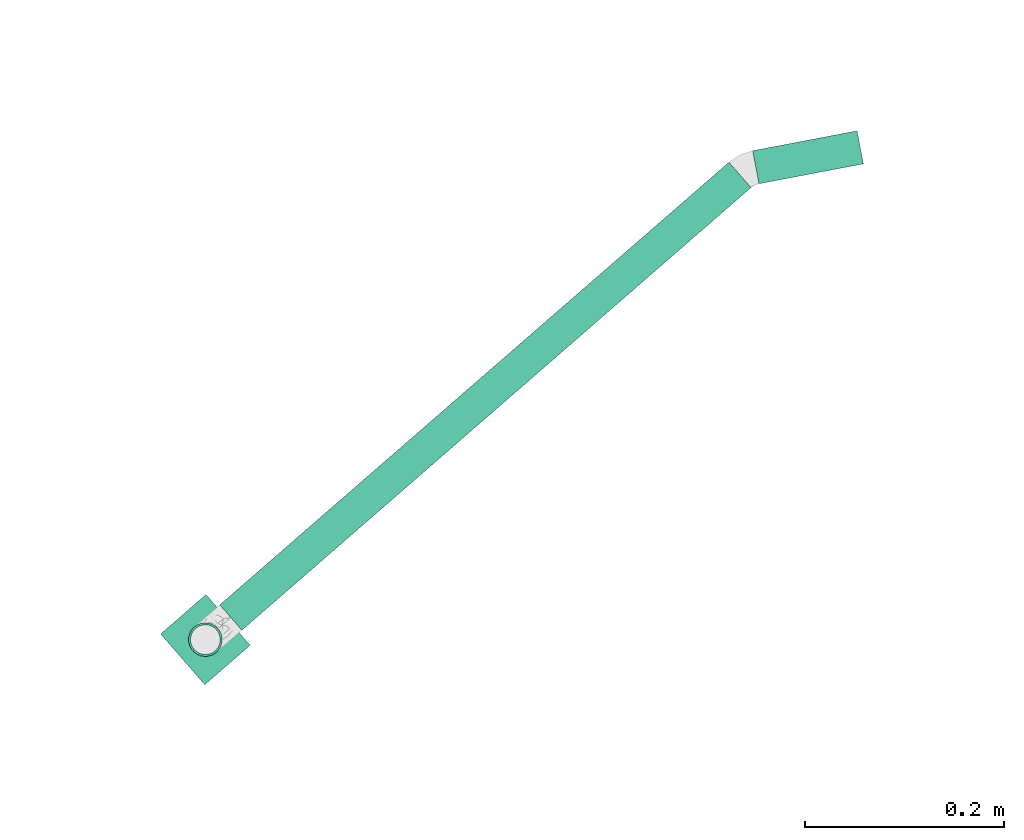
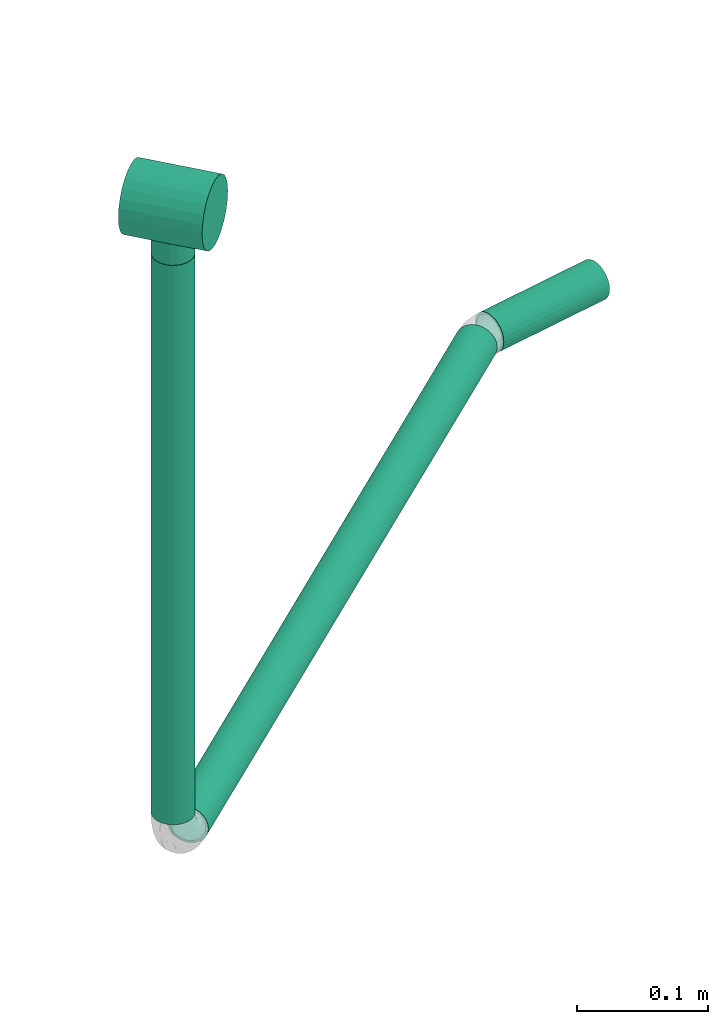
# One storey, part 11 of 63: 3 flow segments, 1 flow fitting.
"""IFC2X3 building model written with IfcOpenShell, lengths in millimetres."""

from ifc_helpers import new_model, entity, si_unit, converted_unit, derived_unit, direction, frame, origin_with_axes, origin_2d_with_axis, place, context, subcontext, project, spatial, hollow_circle, extrude, open_shell, surface_model, source, transform, mapped, type_object, element, save


model = new_model("IFC2X3")

# Units and contexts
model_context = context("Model", 3, precision=0.01, world=frame((0.0, 4.29681676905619e-09, 0.0)), true_north=direction((4.01073788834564e-13, 1.0)))
plan_context = context("Plan", 3, precision=0.01, world=frame((0.0, 4.29681676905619e-09, 0.0)), true_north=direction((4.01073788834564e-13, 1.0)))
body_context = subcontext(model_context, "Body", "Model", "MODEL_VIEW")
ifc_project = project(units=[converted_unit("PLANEANGLEUNIT", "DEGREE", entity("IfcPositiveLengthMeasure", 0.0174532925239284), si_unit("PLANEANGLEUNIT", "RADIAN"), dimensions=[0, 0, 0, 0, 0, 0, 0]), si_unit("AREAUNIT", "SQUARE_METRE"), si_unit("LENGTHUNIT", "METRE", prefix="MILLI"), si_unit("MASSUNIT", "GRAM", prefix="KILO"), si_unit("POWERUNIT", "WATT"), si_unit("PRESSUREUNIT", "PASCAL", prefix="KILO"), si_unit("FORCEUNIT", "NEWTON", prefix="KILO"), si_unit("ELECTRICVOLTAGEUNIT", "VOLT"), si_unit("ELECTRICCURRENTUNIT", "AMPERE"), si_unit("THERMODYNAMICTEMPERATUREUNIT", "DEGREE_CELSIUS"), si_unit("TIMEUNIT", "SECOND"), si_unit("VOLUMEUNIT", "CUBIC_METRE"), derived_unit("LINEARVELOCITYUNIT", [(si_unit("LENGTHUNIT", "METRE"), 1), (si_unit("TIMEUNIT", "SECOND"), -1)]), derived_unit("VOLUMETRICFLOWRATEUNIT", [(si_unit("VOLUMEUNIT", "CUBIC_METRE"), 1), (si_unit("TIMEUNIT", "SECOND"), -1)]), derived_unit("THERMALTRANSMITTANCEUNIT", [(si_unit("POWERUNIT", "WATT"), 1), (si_unit("THERMODYNAMICTEMPERATUREUNIT", "KELVIN"), -1), (si_unit("AREAUNIT", "SQUARE_METRE"), -1)]), derived_unit("SOUNDPRESSUREUNIT", [(si_unit("PRESSUREUNIT", "PASCAL"), 1)])], contexts=[model_context, plan_context])

# Site, building, storey
site_placement = place(None, frame((0.0, -4.29681676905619e-09, 0.0), z_axis=(0.0, 0.0, 1.0), x_axis=(1.0, 0.0, 0.0)))
site = spatial("IfcSite", under=ifc_project, at=site_placement, CompositionType="ELEMENT")
building_placement = place(site_placement, frame((0.0, 4.29681676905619e-09, 0.0), z_axis=(0.0, 0.0, 1.0), x_axis=(1.0, 0.0, 0.0)))
building = spatial("IfcBuilding", under=site, at=building_placement, Name="mc-building", CompositionType="ELEMENT")
storey_placement = place(building_placement, frame((0.0, 0.0, 207370.0), z_axis=(0.0, 0.0, 1.0), x_axis=(1.0, 0.0, 0.0)))
storey = spatial("IfcBuildingStorey", under=building, at=storey_placement, Name="Nivå E", CompositionType="ELEMENT", Elevation=207370.0)

# Flow fitting
pipe_fitting_type = type_object("IfcPipeFittingType", Name="magi_pipe_fe_tee_centric_90_NOR", PredefinedType="JUNCTION")
shared_shape_1 = source(origin_with_axes(), body_context, "Body", "SurfaceModel", [
    surface_model("IfcShellBasedSurfaceModel", [(-33.8, 15.1, -26.15397), (-33.8, 7.81634, -29.17096), (-33.8, 0.0, -30.2), (-33.8, 29.17096, -7.81634), (-33.8, 26.15397, -15.1), (-33.8, 21.35462, -21.35462), (-33.8, 30.2, 0.0), (-33.8, -30.2, 0.0), (-33.8, -15.1, -26.15397), (-33.8, -21.35462, -21.35462), (-33.8, -7.81634, -29.17096), (-33.8, -26.15397, -15.1), (-33.8, -29.17096, -7.81634), (-33.8, 26.15397, 15.1), (-33.8, 29.17096, 7.81634), (-33.8, 15.1, 26.15397), (-33.8, -21.35462, 21.35462), (-33.8, 21.35462, 21.35462), (-33.8, 7.81634, 29.17096), (-33.8, -29.17096, 7.81634), (-33.8, -26.15397, 15.1), (-33.8, -7.81634, 29.17096), (-33.8, 0.0, 30.2), (-33.8, -15.1, 26.15397), (33.8, 29.17096, -7.81634), (33.8, 0.0, -30.2), (33.8, 7.81634, -29.17096), (33.8, 21.35462, -21.35462), (33.8, 15.1, -26.15397), (33.8, 26.15397, -15.1), (33.8, -30.2, 0.0), (33.8, -7.81634, -29.17096), (33.8, -21.35462, -21.35462), (33.8, -15.1, -26.15397), (33.8, -29.17096, -7.81634), (33.8, -26.15397, -15.1), (33.8, 30.2, 0.0), (33.8, 29.17096, 7.81634), (33.8, 26.15397, 15.1), (33.8, -29.17096, 7.81634), (33.8, 15.1, 26.15397), (33.8, 7.81634, 29.17096), (33.8, 21.35462, 21.35462), (33.8, -21.35462, 21.35462), (33.8, -26.15397, 15.1), (33.8, -15.1, 26.15397), (33.8, 0.0, 30.2), (33.8, -7.81634, 29.17096), (33.8, -29.68548, 3.90817), (15.846, -29.62306, 5.87488), (16.373, -29.91153, 2.93744), (12.91037, -28.16217, 10.90561), (2.99213, -25.2068, 16.63301), (16.9, -30.2, 0.0), (33.8, -27.66246, 11.45817), (8.50854, -26.43531, 14.60187), (-8.51006, -26.43579, 14.60099), (-33.8, -27.66246, 11.45817), (-12.91447, -28.16405, 10.90075), (-15.84655, -29.62335, 5.87341), (-33.8, -29.68548, 3.90817), (-16.37327, -29.91168, 2.93671), (-16.9, -30.2, 0.0), (-2.99705, -25.20739, 16.63213), (2.99213, -25.2068, -16.63301), (-16.37327, -29.91168, -2.93671), (8.50854, -26.43531, -14.60187), (33.8, -27.66246, -11.45817), (16.373, -29.91153, -2.93744), (-33.8, -29.68548, -3.90817), (-15.84655, -29.62335, -5.87341), (15.846, -29.62306, -5.87488), (12.91037, -28.16217, -10.90561), (33.8, -29.68548, -3.90817), (-2.99705, -25.20739, -16.63213), (-8.51006, -26.43579, -14.60099), (-12.91447, -28.16405, -10.90075), (-33.8, -27.66246, -11.45817), (4.37404, -45.3, -16.32415), (-16.9, -45.3, 0.0), (0.0, -45.3, -16.9), (14.63583, -45.3, -8.45), (8.45, -45.3, -14.63583), (16.32415, -45.3, -4.37404), (11.9501, -45.3, -11.9501), (-11.9501, -45.3, -11.9501), (-8.45, -45.3, -14.63583), (-4.37404, -45.3, -16.32415), (-14.63583, -45.3, -8.45), (-16.32415, -45.3, -4.37404), (16.9, -45.3, 0.0), (8.45, -45.3, 14.63583), (16.32415, -45.3, 4.37404), (14.63583, -45.3, 8.45), (-8.45, -45.3, 14.63583), (11.9501, -45.3, 11.9501), (4.37404, -45.3, 16.32415), (-16.32415, -45.3, 4.37404), (-11.9501, -45.3, 11.9501), (-14.63583, -45.3, 8.45), (0.0, -45.3, 16.9), (-4.37404, -45.3, 16.32415), (-5.75355, -25.82159, 15.61656), (-0.00246, -25.20709, 16.63257), (5.75034, -25.82105, 15.61744), (5.75034, -25.82105, -15.61744), (-0.00246, -25.20709, -16.63257), (-5.75355, -25.82159, -15.61656)], [open_shell([[[0, 1, 2]], [[3, 0, 2]], [[0, 3, 4]], [[5, 0, 4]], [[6, 2, 7]], [[8, 9, 10]], [[9, 2, 10]], [[11, 12, 9]], [[7, 9, 12]], [[9, 7, 2]], [[6, 3, 2]], [[13, 14, 6]], [[7, 15, 13]], [[7, 16, 15]], [[17, 13, 15]], [[18, 15, 16]], [[19, 20, 7]], [[7, 20, 16]], [[21, 22, 23]], [[16, 23, 22]], [[16, 22, 18]], [[7, 13, 6]], [[24, 25, 26]], [[27, 26, 28]], [[29, 24, 26]], [[29, 26, 27]], [[25, 24, 30]], [[31, 32, 33]], [[32, 31, 34]], [[32, 34, 35]], [[34, 31, 30]], [[31, 25, 30]], [[24, 36, 30]], [[36, 37, 38]], [[39, 36, 38]], [[40, 41, 38]], [[40, 38, 42]], [[43, 38, 41]], [[39, 43, 44]], [[39, 38, 43]], [[45, 46, 47]], [[46, 45, 43]], [[41, 46, 43]], [[36, 39, 30]], [[48, 39, 49]], [[30, 48, 50]], [[39, 51, 49]], [[44, 43, 52]], [[30, 50, 53]], [[51, 54, 55]], [[52, 55, 44]], [[48, 49, 50]], [[43, 16, 52]], [[55, 54, 44]], [[56, 57, 58]], [[59, 60, 61]], [[62, 61, 7]], [[59, 58, 19]], [[56, 63, 20]], [[51, 39, 54]], [[20, 57, 56]], [[20, 63, 16]], [[58, 57, 19]], [[63, 52, 16]], [[7, 61, 60]], [[59, 19, 60]], [[43, 23, 16]], [[22, 47, 46]], [[21, 45, 47]], [[18, 46, 41]], [[38, 37, 14]], [[17, 40, 42]], [[13, 42, 38]], [[41, 40, 15]], [[6, 37, 36]], [[23, 45, 21]], [[21, 47, 22]], [[18, 22, 46]], [[41, 15, 18]], [[15, 40, 17]], [[13, 17, 42]], [[14, 13, 38]], [[37, 6, 14]], [[45, 23, 43]], [[4, 24, 29]], [[3, 36, 24]], [[5, 29, 27]], [[25, 31, 10]], [[1, 28, 26]], [[2, 26, 25]], [[27, 28, 0]], [[8, 31, 33]], [[6, 36, 3]], [[3, 24, 4]], [[5, 4, 29]], [[27, 0, 5]], [[0, 28, 1]], [[2, 1, 26]], [[10, 2, 25]], [[31, 8, 10]], [[33, 9, 8]], [[32, 35, 64]], [[7, 65, 62]], [[66, 64, 35]], [[67, 66, 35]], [[32, 64, 9]], [[53, 68, 30]], [[69, 70, 65]], [[71, 72, 34]], [[71, 73, 68]], [[66, 67, 72]], [[34, 72, 67]], [[74, 75, 11]], [[76, 12, 77]], [[11, 9, 74]], [[76, 77, 75]], [[74, 9, 64]], [[76, 70, 12]], [[71, 34, 73]], [[70, 69, 12]], [[65, 7, 69]], [[30, 68, 73]], [[77, 11, 75]], [[32, 9, 33]], [[78, 79, 80]], [[81, 78, 82]], [[81, 83, 78]], [[81, 82, 84]], [[79, 78, 83]], [[80, 85, 86]], [[86, 87, 80]], [[88, 79, 89]], [[85, 80, 88]], [[79, 88, 80]], [[83, 90, 79]], [[91, 90, 92]], [[91, 92, 93]], [[94, 79, 91]], [[91, 93, 95]], [[94, 91, 96]], [[97, 98, 99]], [[98, 97, 94]], [[94, 100, 101]], [[97, 79, 94]], [[96, 100, 94]], [[91, 79, 90]], [[97, 61, 79]], [[58, 99, 98]], [[97, 99, 59]], [[98, 94, 56]], [[61, 62, 79]], [[59, 99, 58]], [[101, 63, 102]], [[56, 58, 98]], [[100, 52, 103]], [[91, 104, 96]], [[100, 96, 52]], [[50, 49, 92]], [[50, 90, 53]], [[104, 91, 55]], [[102, 94, 101]], [[102, 56, 94]], [[100, 63, 101]], [[97, 59, 61]], [[55, 91, 95]], [[95, 51, 55]], [[52, 96, 104]], [[92, 49, 93]], [[90, 50, 92]], [[93, 49, 51]], [[93, 51, 95]], [[103, 63, 100]], [[83, 68, 90]], [[72, 81, 84]], [[83, 81, 71]], [[84, 82, 66]], [[68, 53, 90]], [[71, 81, 72]], [[78, 64, 105]], [[66, 72, 84]], [[80, 74, 106]], [[86, 107, 87]], [[65, 70, 89]], [[105, 82, 78]], [[105, 66, 82]], [[75, 86, 85]], [[83, 71, 68]], [[70, 88, 89]], [[65, 79, 62]], [[85, 88, 76]], [[80, 64, 78]], [[87, 107, 74]], [[74, 80, 87]], [[75, 107, 86]], [[75, 85, 76]], [[76, 88, 70]], [[79, 65, 89]], [[106, 64, 80]]])]),
])
flow_fitting_placement = place(storey_placement, frame((718309.59905, 441700.3416, 7730.0), z_axis=(0.754709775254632, 0.65605880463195, 0.0), x_axis=(-0.65605880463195, 0.754709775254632, 0.0)))
element("IfcFlowFitting", 1, at=flow_fitting_placement, inside=storey, type_object=pipe_fitting_type, Name="magi_pipe_fe_tee_centric_90_NOR", context=body_context, shape_type="MappedRepresentation", body=[
    mapped(shared_shape_1, transform((0.0, 0.0, 0.0), scale=1.0)),
])

# Flow segments
pipe_segment_type = type_object("IfcPipeSegmentType", Name="Stålrør normaltykke", PredefinedType="RIGIDSEGMENT")
shared_shape_2 = source(origin_with_axes(), body_context, "Body", "SweptSolid", [
    extrude(hollow_circle(Radius=16.9, WallThickness=2.0, at=origin_2d_with_axis()), frame((0.0, 0.0, 0.0), z_axis=(1.0, 0.0, 0.0), x_axis=(0.0, 1.0, 0.0)), (0.0, 0.0, 1.0), 677.1),
])
flow_segment_1_placement = place(storey_placement, frame((718335.10823, 441722.51639, 7130.0), z_axis=(0.0, 0.0, 1.0), x_axis=(0.754709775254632, 0.65605880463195, 0.0)))
element("IfcFlowSegment", 2, at=flow_segment_1_placement, inside=storey, type_object=pipe_segment_type, Name="Stålrør normaltykke", context=body_context, shape_type="MappedRepresentation", body=[
    mapped(shared_shape_2, transform((0.0, 0.0, 0.0), scale=1.0)),
])
shared_shape_3 = source(origin_with_axes(), body_context, "Body", "SweptSolid", [
    extrude(hollow_circle(Radius=16.9, WallThickness=2.0, at=origin_2d_with_axis()), frame((0.0, 0.0, 0.0), z_axis=(1.0, 0.0, 0.0), x_axis=(0.0, 1.0, 0.0)), (0.0, 0.0, 1.0), 520.9),
])
flow_segment_2_placement = place(storey_placement, frame((718309.59905, 441700.3416, 7684.70000000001), z_axis=(0.754709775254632, 0.65605880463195, 0.0), x_axis=(0.0, 0.0, -1.0)))
element("IfcFlowSegment", 3, at=flow_segment_2_placement, inside=storey, type_object=pipe_segment_type, Name="Stålrør normaltykke", context=body_context, shape_type="MappedRepresentation", body=[
    mapped(shared_shape_3, transform((0.0, 0.0, 0.0), scale=1.0)),
])
shared_shape_4 = source(origin_with_axes(), body_context, "Body", "SweptSolid", [
    extrude(hollow_circle(Radius=16.9, WallThickness=2.0, at=origin_2d_with_axis()), frame((0.0, 0.0, 0.0), z_axis=(1.0, 0.0, 0.0), x_axis=(0.0, 1.0, 0.0)), (0.0, 0.0, 1.0), 106.7),
])
flow_segment_3_placement = place(storey_placement, frame((718966.79671, 442194.37692, 7130.0), z_axis=(0.0, 0.0, 1.0), x_axis=(-0.982346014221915, -0.187073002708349, 0.0)))
element("IfcFlowSegment", 4, at=flow_segment_3_placement, inside=storey, type_object=pipe_segment_type, Name="Stålrør normaltykke", context=body_context, shape_type="MappedRepresentation", body=[
    mapped(shared_shape_4, transform((0.0, 0.0, 0.0), scale=1.0)),
])

save(model, "model.ifc")
